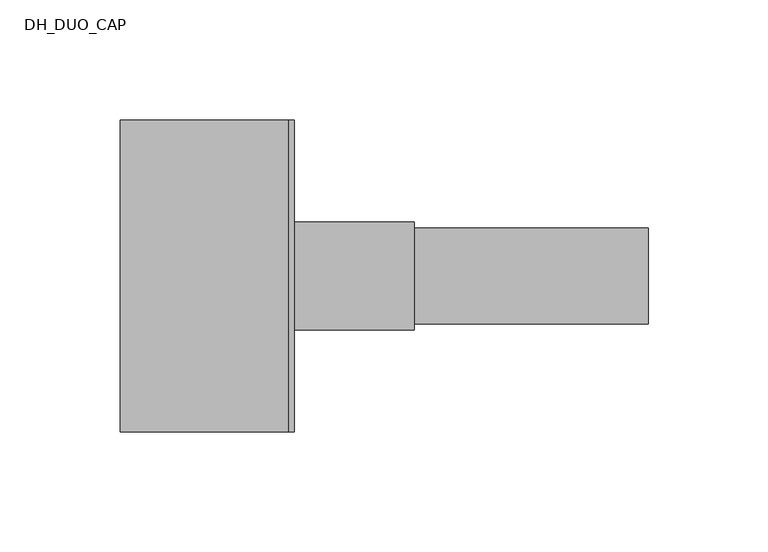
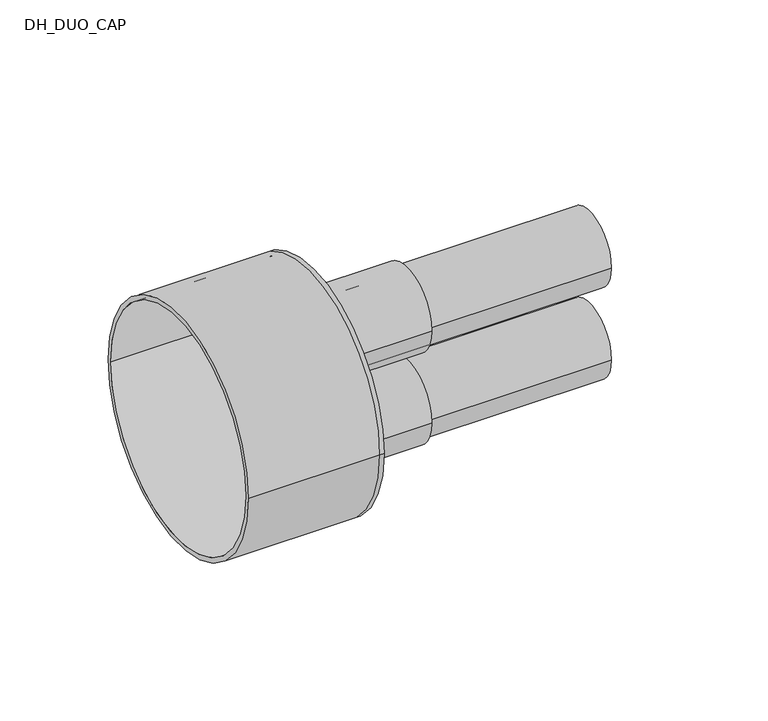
"""IFC4 building model written with IfcOpenShell, lengths in millimetres: pipe fitting geometry, DH_DUO_CAP : INSULPEX DUO 11 Heating - Rubber Cap."""

from ifc_helpers import new_model, si_unit, point, frame, frame_2d, origin, place, context, project, spatial, polyline, circle_curve, trimmed, segment, composite_curve, outline, extrude, source, transform, mapped, element, save
from ifc_brep_helpers import plane_surface, cylinder_surface, revolved_surface, advanced_brep


def dh_duo_cap_d58dff88(model_context):
    return source(origin(), model_context, "Body", "SolidModel", [
        extrude(outline(composite_curve([segment(trimmed(circle_curve(frame_2d((0.0, -26.0)), 20.0), [point((-20.0, -26.0))], [point((20.0, -26.0))], False, "CARTESIAN"), True, "CONTINUOUS"), segment(trimmed(circle_curve(frame_2d((0.0, -26.0)), 20.0), [point((20.0, -26.0))], [point((-20.0, -26.0))], False, "CARTESIAN"), True, "CONTINUOUS")], self_intersect=False), holes=[composite_curve([segment(trimmed(circle_curve(frame_2d((0.0, -26.0)), 16.3), [point((-16.3, -26.0))], [point((16.3, -26.0))], True, "CARTESIAN"), True, "CONTINUOUS"), segment(trimmed(circle_curve(frame_2d((0.0, -26.0)), 16.3), [point((16.3, -26.0))], [point((-16.3, -26.0))], True, "CARTESIAN"), True, "CONTINUOUS")], self_intersect=False)]), frame((0.0, 0.0, 0.0), z_axis=(1.0, 0.0, 0.0), x_axis=(0.0, 1.0, 0.0)), (0.0, 0.0, 1.0), 150.0),
        extrude(outline(composite_curve([segment(trimmed(circle_curve(frame_2d((0.0, 26.0)), 20.0), [point((-20.0, 26.0))], [point((20.0, 26.0))], False, "CARTESIAN"), True, "CONTINUOUS"), segment(trimmed(circle_curve(frame_2d((0.0, 26.0)), 20.0), [point((20.0, 26.0))], [point((-20.0, 26.0))], False, "CARTESIAN"), True, "CONTINUOUS")], self_intersect=False), holes=[composite_curve([segment(trimmed(circle_curve(frame_2d((0.0, 26.0)), 16.3), [point((-16.3, 26.0))], [point((16.3, 26.0))], True, "CARTESIAN"), True, "CONTINUOUS"), segment(trimmed(circle_curve(frame_2d((0.0, 26.0)), 16.3), [point((16.3, 26.0))], [point((-16.3, 26.0))], True, "CARTESIAN"), True, "CONTINUOUS")], self_intersect=False)]), frame((0.0, 0.0, 0.0), z_axis=(1.0, 0.0, 0.0), x_axis=(0.0, 1.0, 0.0)), (0.0, 0.0, 1.0), 150.0),
        advanced_brep(
        [(-70.0, -65.0, 0.0), (-70.0, 65.0, 0.0), (-70.0, -62.5, 0.0), (-70.0, 62.5, 0.0), (0.0, -62.5, 0.0), (0.0, 62.5, 0.0), (0.0, -65.0, 0.0), (0.0, 65.0, 0.0), (0.0, 20.0, 26.0), (0.0, -20.0, 26.0), (0.0, 20.0, -26.0), (0.0, -20.0, -26.0), (2.5, -65.0, 0.0), (2.5, 65.0, 0.0), (2.5, -20.0, 26.0), (2.5, 20.0, 26.0), (2.5, -20.0, -26.0), (2.5, 20.0, -26.0)],
        [
            (0, 1, circle_curve(frame((-70.0, 0.0, 0.0), z_axis=(-1.0, 0.0, 0.0), x_axis=(0.0, 1.0, 0.0)), 65.0)),
            (1, 0, circle_curve(frame((-70.0, 0.0, 0.0), z_axis=(-1.0, 0.0, 0.0), x_axis=(0.0, 1.0, 0.0)), 65.0)),
            (2, 3, circle_curve(frame((-70.0, 0.0, 0.0), z_axis=(1.0, 0.0, 0.0), x_axis=(0.0, 1.0, 0.0)), 62.5)),
            (3, 2, circle_curve(frame((-70.0, 0.0, 0.0), z_axis=(1.0, 0.0, 0.0), x_axis=(0.0, 1.0, 0.0)), 62.5)),
            (2, 4),
            (4, 5, circle_curve(frame((0.0, 0.0, 0.0), z_axis=(1.0, 0.0, 0.0), x_axis=(0.0, 1.0, 0.0)), 62.5)),
            (5, 3),
            (5, 4, circle_curve(frame((0.0, 0.0, 0.0), z_axis=(1.0, 0.0, 0.0), x_axis=(0.0, 1.0, 0.0)), 62.5)),
            (0, 6),
            (6, 7, circle_curve(frame((0.0, 0.0, 0.0), z_axis=(-1.0, 0.0, 0.0), x_axis=(0.0, 1.0, 0.0)), 65.0)),
            (7, 1),
            (7, 6, circle_curve(frame((0.0, 0.0, 0.0), z_axis=(-1.0, 0.0, 0.0), x_axis=(0.0, 1.0, 0.0)), 65.0)),
            (8, 9, circle_curve(frame((0.0, 0.0, 26.0), z_axis=(1.0, 0.0, 0.0), x_axis=(0.0, 1.0, 0.0)), 20.0)),
            (9, 8, circle_curve(frame((0.0, 0.0, 26.0), z_axis=(1.0, 0.0, 0.0), x_axis=(0.0, 1.0, 0.0)), 20.0)),
            (10, 11, circle_curve(frame((0.0, 0.0, -26.0), z_axis=(1.0, 0.0, 0.0), x_axis=(0.0, 1.0, 0.0)), 20.0)),
            (11, 10, circle_curve(frame((0.0, 0.0, -26.0), z_axis=(1.0, 0.0, 0.0), x_axis=(0.0, 1.0, 0.0)), 20.0)),
            (12, 13, circle_curve(frame((2.5, 0.0, 0.0), z_axis=(1.0, 0.0, 0.0), x_axis=(0.0, 1.0, 0.0)), 65.0)),
            (13, 12, circle_curve(frame((2.5, 0.0, 0.0), z_axis=(1.0, 0.0, 0.0), x_axis=(0.0, 1.0, 0.0)), 65.0)),
            (14, 15, circle_curve(frame((2.5, 0.0, 26.0), z_axis=(-1.0, 0.0, 0.0), x_axis=(0.0, 1.0, 0.0)), 20.0)),
            (15, 14, circle_curve(frame((2.5, 0.0, 26.0), z_axis=(-1.0, 0.0, 0.0), x_axis=(0.0, 1.0, 0.0)), 20.0)),
            (16, 17, circle_curve(frame((2.5, 0.0, -26.0), z_axis=(-1.0, 0.0, 0.0), x_axis=(0.0, 1.0, 0.0)), 20.0)),
            (17, 16, circle_curve(frame((2.5, 0.0, -26.0), z_axis=(-1.0, 0.0, 0.0), x_axis=(0.0, 1.0, 0.0)), 20.0)),
            (13, 7),
            (6, 12),
            (8, 15),
            (14, 9),
            (10, 17),
            (16, 11),
        ],
        [
            plane_surface(frame((-70.0, 0.0, 0.0), z_axis=(-1.0, 0.0, 0.0), x_axis=(0.0, 0.0, 1.0))),
            revolved_surface(polyline([(0.0, 62.5, 0.0), (-70.0, 62.5, 0.0)]), (-70.0, 0.0, 0.0), (1.0, 0.0, 0.0)),
            cylinder_surface(frame((-70.0, 0.0, 0.0), z_axis=(-1.0, 0.0, 0.0), x_axis=(0.0, 1.0, 0.0)), 65.0),
            plane_surface(frame((0.0, 0.0, 0.0), z_axis=(-1.0, 0.0, 0.0), x_axis=(0.0, 0.0, 1.0))),
            plane_surface(frame((2.5, 0.0, 0.0), z_axis=(1.0, 0.0, 0.0), x_axis=(0.0, 0.0, 1.0))),
            cylinder_surface(frame((0.0, 0.0, 0.0), z_axis=(-1.0, 0.0, 0.0), x_axis=(0.0, 1.0, 0.0)), 65.0),
            revolved_surface(polyline([(0.0, 20.0, 26.0), (2.5, 20.0, 26.0)]), (0.0, 0.0, 26.0), (-1.0, 0.0, 0.0)),
            revolved_surface(polyline([(0.0, 20.0, -26.0), (2.5, 20.0, -26.0)]), (0.0, 0.0, -26.0), (-1.0, 0.0, 0.0)),
        ],
        [
            (0, [[1, 2], [3, 4]]),
            (1, [[-3, 5, 6, 7]]),
            (1, [[-4, -7, 8, -5]]),
            (2, [[-1, 9, 10, 11]]),
            (2, [[-2, -11, 12, -9]]),
            (3, [[-6, -8], [13, 14], [15, 16]]),
            (4, [[17, 18], [19, 20], [21, 22]]),
            (5, [[-18, 23, -10, 24]]),
            (5, [[-17, -24, -12, -23]]),
            (6, [[25, -19, 26, -13]]),
            (6, [[-25, -14, -26, -20]]),
            (7, [[27, -21, 28, -15]]),
            (7, [[-27, -16, -28, -22]]),
        ],
    ),
        extrude(outline(composite_curve([segment(trimmed(circle_curve(frame_2d((0.0, -26.0)), 22.5), [point((-22.5, -26.0))], [point((22.5, -26.0))], False, "CARTESIAN"), True, "CONTINUOUS"), segment(trimmed(circle_curve(frame_2d((0.0, -26.0)), 22.5), [point((22.5, -26.0))], [point((-22.5, -26.0))], False, "CARTESIAN"), True, "CONTINUOUS")], self_intersect=False), holes=[composite_curve([segment(trimmed(circle_curve(frame_2d((0.0, -26.0)), 20.0), [point((-20.0, -26.0))], [point((20.0, -26.0))], True, "CARTESIAN"), True, "CONTINUOUS"), segment(trimmed(circle_curve(frame_2d((0.0, -26.0)), 20.0), [point((20.0, -26.0))], [point((-20.0, -26.0))], True, "CARTESIAN"), True, "CONTINUOUS")], self_intersect=False)]), frame((2.5, 0.0, 0.0), z_axis=(1.0, 0.0, 0.0), x_axis=(0.0, 1.0, 0.0)), (0.0, 0.0, 1.0), 50.0),
        extrude(outline(composite_curve([segment(trimmed(circle_curve(frame_2d((0.0, 26.0)), 22.5), [point((-22.5, 26.0))], [point((22.5, 26.0))], False, "CARTESIAN"), True, "CONTINUOUS"), segment(trimmed(circle_curve(frame_2d((0.0, 26.0)), 22.5), [point((22.5, 26.0))], [point((-22.5, 26.0))], False, "CARTESIAN"), True, "CONTINUOUS")], self_intersect=False), holes=[composite_curve([segment(trimmed(circle_curve(frame_2d((0.0, 26.0)), 20.0), [point((-20.0, 26.0))], [point((20.0, 26.0))], True, "CARTESIAN"), True, "CONTINUOUS"), segment(trimmed(circle_curve(frame_2d((0.0, 26.0)), 20.0), [point((20.0, 26.0))], [point((-20.0, 26.0))], True, "CARTESIAN"), True, "CONTINUOUS")], self_intersect=False)]), frame((2.5, 0.0, 0.0), z_axis=(1.0, 0.0, 0.0), x_axis=(0.0, 1.0, 0.0)), (0.0, 0.0, 1.0), 50.0),
    ])


if __name__ == "__main__":
    model = new_model("IFC4")
    model_context = context("Model", 3, world=origin())
    ifc_project = project(units=[si_unit("LENGTHUNIT", "METRE", prefix="MILLI")], contexts=[model_context])
    site = spatial("IfcSite", under=ifc_project)
    building = spatial("IfcBuilding", under=site)
    placement = place(None, origin())
    dh_duo_cap_shape = dh_duo_cap_d58dff88(model_context)
    element("IfcPipeFitting", 1, ObjectType="DH_DUO_CAP : INSULPEX DUO 11 Heating - Rubber Cap", at=placement, inside=building, context=model_context, shape_type="MappedRepresentation", body=[
        mapped(dh_duo_cap_shape, transform((0.0, 0.0, 0.0), x_axis=(1.0, 0.0, 0.0), y_axis=(0.0, 1.0, 0.0), z_axis=(0.0, 0.0, 1.0))),
    ])
    save(model, "model.ifc")
